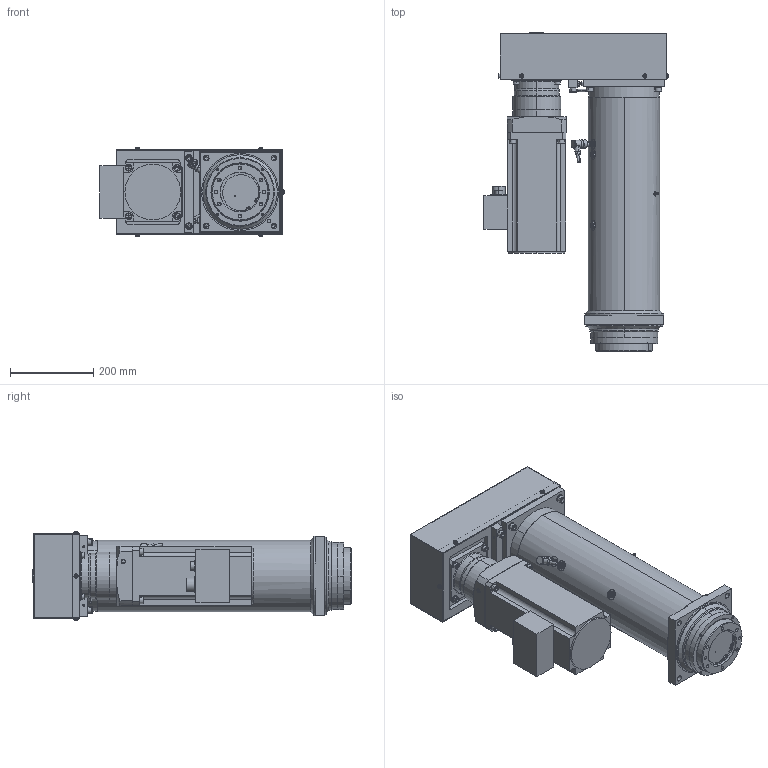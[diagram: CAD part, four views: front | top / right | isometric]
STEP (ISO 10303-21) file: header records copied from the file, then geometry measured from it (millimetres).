
FILE_DESCRIPTION (( 'STEP AP203' ), '1' );
FILE_NAME ('374181.STEP', '2018-10-17T08:55:43', ( '' ), ( '' ), 'SwSTEP 2.0', 'SolidWorks 2016', '' );
FILE_SCHEMA (( 'CONFIG_CONTROL_DESIGN' ));
Length unit declared in the file: millimetre
Products named in the file (1): 374181
Bounding box: 442.37 x 766 x 211.5 mm (x, y, z)
Volume: 15564148.8 mm3; surface area: 2370543.2 mm2
Topology: 57 solids, 58 shells, 1840 faces, 4266 edges, 2583 vertices
Faces by surface type: plane 761, cylinder 695, cone 310, torus 68, bspline 6
Entity records: 57072 total; most frequent: CARTESIAN_POINT 14760, DIRECTION 9329, ORIENTED_EDGE 8220, EDGE_CURVE 4110, AXIS2_PLACEMENT_3D 3622, VERTEX_POINT 2583, EDGE_LOOP 2229, VECTOR 2085
